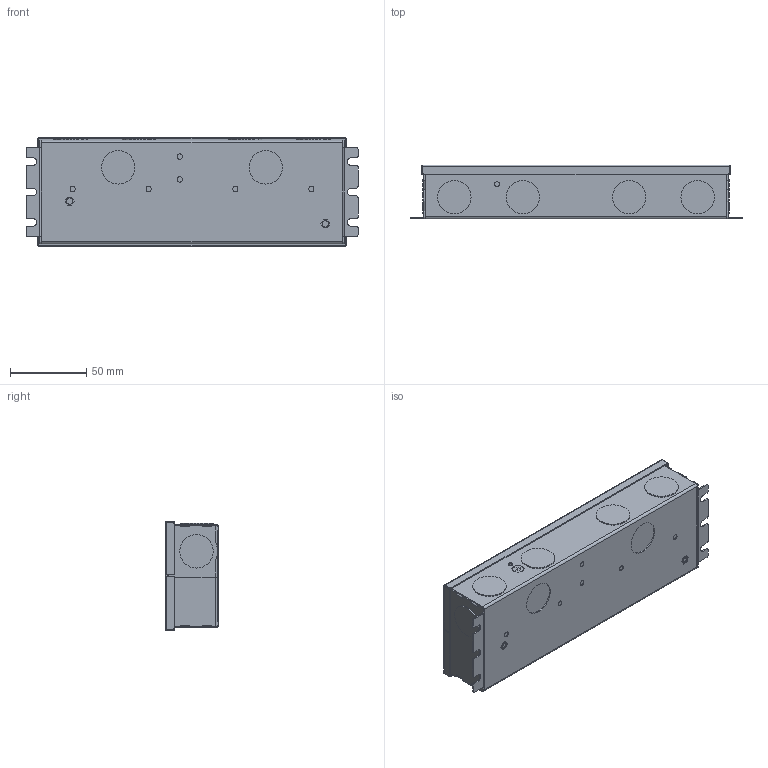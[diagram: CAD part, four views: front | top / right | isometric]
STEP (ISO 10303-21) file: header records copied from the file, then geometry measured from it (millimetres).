
FILE_DESCRIPTION((''),'2;1');
FILE_NAME('6_CASE_2_ASM','2025-08-13T14:59:46',('Administrator'),(''),'CREO PARAMETRIC BY PTC INC, 2020053','CREO PARAMETRIC BY PTC INC, 2020053','');
FILE_SCHEMA(('CONFIG_CONTROL_DESIGN','SHAPE_APPEARANCE_LAYERS_GROUPS'));
Length unit declared in the file: millimetre
Products named in the file (7): 6_BOTTOM_2; 6_TOP1_2; 6_TOP2_2; 6_GEBAN1; 6_GEBAN2; NEILUOWEN-M3_10; 6_CASE_2_ASM
Assembly tree (7 placements, depth 2):
  6_CASE_2_ASM
    6_BOTTOM_2
    6_TOP1_2
    6_TOP2_2
    6_GEBAN1
    6_GEBAN2
    NEILUOWEN-M3_10  x2
Bounding box: 218.4 x 35.3 x 71.6 mm (x, y, z)
Volume: 45034.7 mm3; surface area: 122525.5 mm2
Topology: 23 solids, 23 shells, 714 faces, 1741 edges, 1112 vertices
Faces by surface type: plane 431, cylinder 247, torus 24, bspline 12
Entity records: 30889 total; most frequent: CARTESIAN_POINT 4467, DIRECTION 3552, ORIENTED_EDGE 3338, PRESENTATION_STYLE_ASSIGNMENT 2274, STYLED_ITEM 2274, EDGE_CURVE 1669, CURVE_STYLE 1597, AXIS2_PLACEMENT_3D 1220
